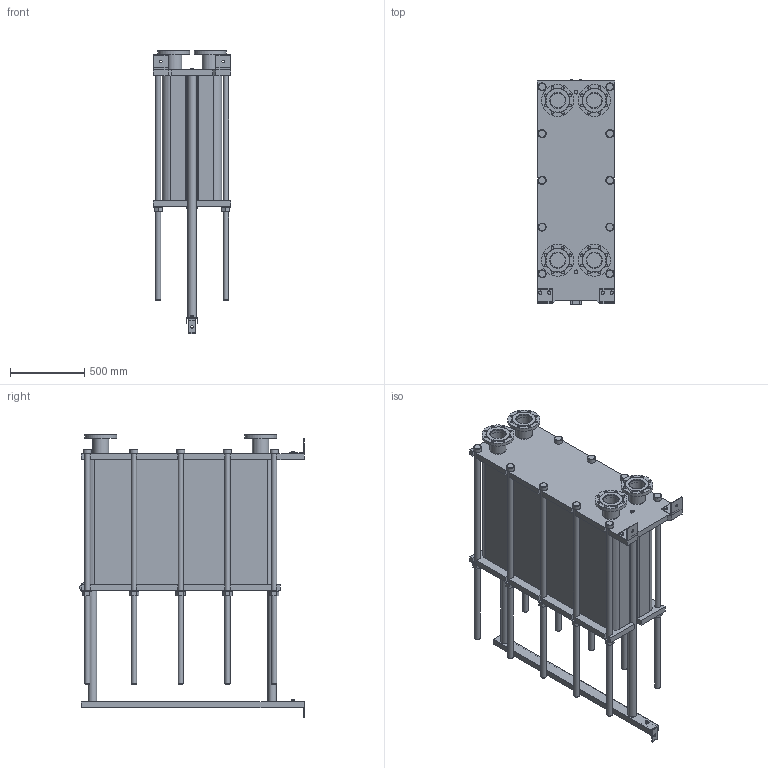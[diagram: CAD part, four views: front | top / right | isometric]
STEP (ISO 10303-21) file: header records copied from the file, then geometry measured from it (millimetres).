
FILE_DESCRIPTION(/* description */ (''),/* implementation_level */ '2;1');
FILE_NAME(/* name */ 'C:\Users\zhuro\Desktop\ENCO\TO\ЭН-04\ЭН-0,5-04-244-1.stp',/* time_stamp */ '2022-06-06T11:06:27+03:00',/* author */ ('zhuro'),/* organization */ (''),/* preprocessor_version */ 'ST-DEVELOPER v18.1',/* originating_system */ 'Autodesk Inventor 2022',/* authorisation */ '');
FILE_SCHEMA (('AUTOMOTIVE_DESIGN { 1 0 10303 214 3 1 1 }'));
Length unit declared in the file: millimetre
Products named in the file (1): ЭН-0,5-04-244-1
Bounding box: 520 x 1510 x 1907 mm (x, y, z)
Volume: 499652256.4 mm3; surface area: 11521835.6 mm2
Topology: 45 solids, 45 shells, 668 faces, 1611 edges, 1048 vertices
Faces by surface type: plane 457, cylinder 166, cone 39, torus 6
Full cylindrical faces by diameter (mm): 8 x4, 10 x2, 16 x8, 18 x35, 36 x25, 40 x2, 42 x1, 45 x4, 54 x10, 57 x2, 60 x10, 68 x2, 100 x4, 110 x8, 215 x4
Entity records: 23607 total; most frequent: CARTESIAN_POINT 7348, DIRECTION 3371, ORIENTED_EDGE 3142, EDGE_CURVE 1571, AXIS2_PLACEMENT_3D 1199, VERTEX_POINT 1044, LINE 973, VECTOR 973
